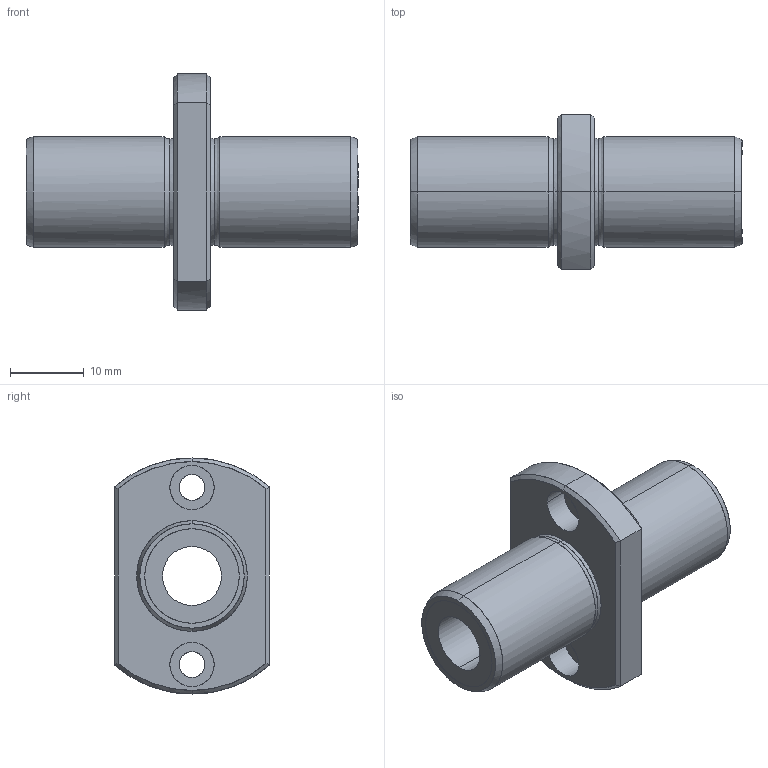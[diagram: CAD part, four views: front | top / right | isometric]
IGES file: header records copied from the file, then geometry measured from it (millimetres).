
Global section: file name: No Iges File Name specified; native system: AutoDesk Inventor R10; preprocessor: AutoDesk Inventor Iges Exporter R10; author: No Author specified; organization: No Organization specified; date: 20101211.154852; units: millimetre
Bounding box: 45 x 21 x 32 mm (x, y, z)
Surface area: 4684 mm2 (no closed solid volume)
Topology: 0 solids, 0 shells, 56 faces, 336 edges, 336 vertices
Faces by surface type: bspline 56
